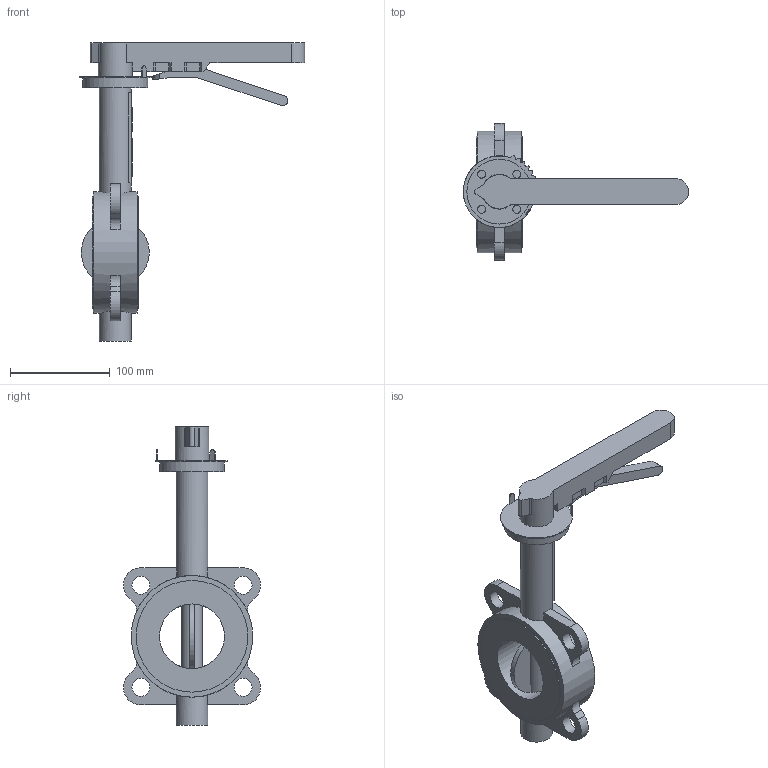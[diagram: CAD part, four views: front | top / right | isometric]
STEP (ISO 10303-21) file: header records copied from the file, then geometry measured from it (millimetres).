
FILE_DESCRIPTION(('STEP AP203'), '1');
FILE_NAME('青蜮铕 017WDN65', '', ('UNSPECIFIED'), ('UNSPECIFIED'), 'ASCON STEP Converter 1.6', 'ASCON Math Kernel', '');
FILE_SCHEMA(('CONFIG_CONTROL_DESIGN'));
Length unit declared in the file: millimetre
Bounding box: 225.97 x 137.48 x 299 mm (x, y, z)
Volume: 154685.8 mm3; surface area: 122158.4 mm2
Topology: 1 solids, 2 shells, 718 faces, 2120 edges, 1368 vertices
Faces by surface type: cylinder 481, plane 237
Full cylindrical faces by diameter (mm): 8 x4, 12.6 x1, 18 x4, 32 x2, 34 x1, 35 x1, 65 x2, 112 x2, 122 x1
Entity records: 31160 total; most frequent: CARTESIAN_POINT 5354, DIRECTION 4514, ORIENTED_EDGE 4143, EDGE_CURVE 2103, AXIS2_PLACEMENT_3D 1729, VERTEX_POINT 1368, LINE 1056, VECTOR 1056
